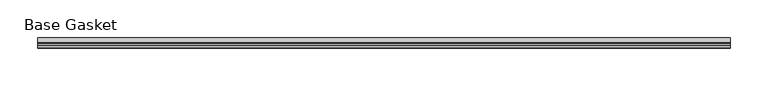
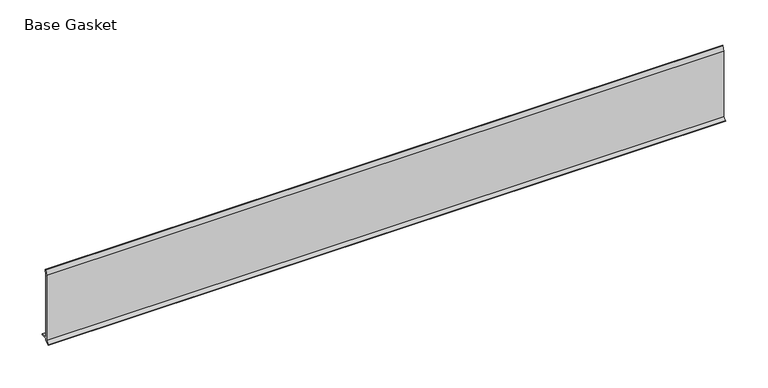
"""IFC4 building model written with IfcOpenShell, lengths in millimetres: furniture geometry, Gasket-Teknion-FHGB-AI_Healthcare-R2021 : Base Gasket."""

from ifc_helpers import new_model, si_unit, frame, origin, place, context, project, spatial, polyline, outline, extrude, source, transform, mapped, element, save


def base_gasket_9af32687(model_context):
    return source(origin(), model_context, "Body", "SweptSolid", [
        extrude(outline(polyline([(-3.7283812, 98.4568417), (-1.1891543, 104.587663), (-0.6755308, 105.2002997), (-0.6755308, 104.4162708), (-2.2043812, 98.4568417), (-2.2043812, 96.8693477), (-1.4106313, 96.8693477), (-1.4106313, 71.4693447), (-2.2043812, 71.4693447), (-2.2043812, 7.9398773), (6.2405171, 7.9398773), (6.2405171, 6.3818476), (-2.1334222, 6.3818476), (-2.2043812, 4.3498477), (-6.8281054, 0.3520979), (-7.8482342, 0.0), (-7.4222115, 0.6560174), (-3.7283812, 4.3498477), (-3.7283812, 98.4568417)])), frame((-1527.8982117, 0.0, 0.0), z_axis=(1.0, 0.0, 0.0), x_axis=(0.0, 1.0, 0.0)), (0.0, 0.0, 1.0), 922.2573348),
    ])


if __name__ == "__main__":
    model = new_model("IFC4")
    model_context = context("Model", 3, world=origin())
    ifc_project = project(units=[si_unit("LENGTHUNIT", "METRE", prefix="MILLI")], contexts=[model_context])
    site = spatial("IfcSite", under=ifc_project)
    building = spatial("IfcBuilding", under=site)
    placement = place(None, origin())
    base_gasket_shape = base_gasket_9af32687(model_context)
    element("IfcFurniture", 1, ObjectType="Gasket-Teknion-FHGB-AI_Healthcare-R2021 : Base Gasket", at=placement, inside=building, context=model_context, shape_type="MappedRepresentation", body=[
        mapped(base_gasket_shape, transform((0.0, 0.0, 0.0), x_axis=(1.0, 0.0, 0.0), y_axis=(0.0, 1.0, 0.0), z_axis=(0.0, 0.0, 1.0))),
    ])
    save(model, "model.ifc")
